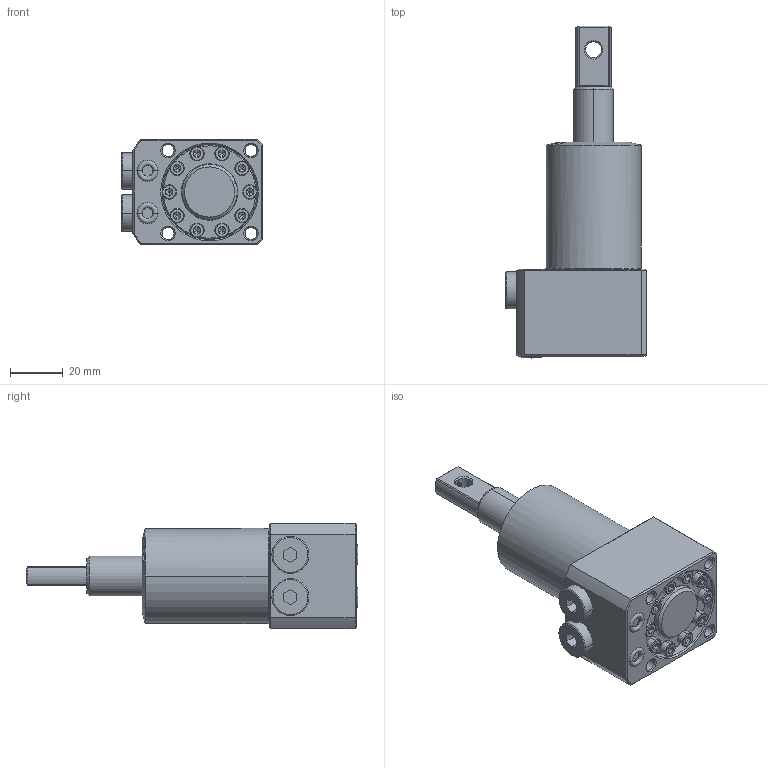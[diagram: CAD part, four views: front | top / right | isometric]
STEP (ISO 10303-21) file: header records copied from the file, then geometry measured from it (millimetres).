
FILE_DESCRIPTION((''),'2;1');
FILE_NAME('SIMP_GENERIC_SWING_CYD_36_PIN_ASM','2023-04-16T15:43:45',('Design 2'),(''),'CREO PARAMETRIC BY PTC INC, 2020053','CREO PARAMETRIC BY PTC INC, 2020053','');
FILE_SCHEMA(('CONFIG_CONTROL_DESIGN'));
Length unit declared in the file: millimetre
Products named in the file (13): BODY___; BODY_TOP_FLG____ASM; PIN_PISTON__; PISTON_ASM____ASM; SWINGER_ARM___; SWINGER_ARM_ASM____ASM; ISHCS03X10_; ORING-5X1-5____; 1_1_2_-___; 2_1_2_-___; HALDER_SEALING_PLUG_228_JHSBXH__ASM; G-1-8-CLOSE_PLUGE_; SIMP_GENERIC_SWING_CYD_36_PIN_ASM
Assembly tree (23 placements, depth 3):
  SIMP_GENERIC_SWING_CYD_36_PIN_ASM
    BODY_TOP_FLG____ASM
      BODY___
    PISTON_ASM____ASM
      PIN_PISTON__
    SWINGER_ARM_ASM____ASM
      SWINGER_ARM___
    ISHCS03X10_  x10
    ORING-5X1-5____  x2
    HALDER_SEALING_PLUG_228_JHSBXH__ASM
      1_1_2_-___
      2_1_2_-___
    G-1-8-CLOSE_PLUGE_  x2
Bounding box: 53.3 x 125.7 x 40 mm (x, y, z)
Volume: 111461.7 mm3; surface area: 33683 mm2
Topology: 19 solids, 19 shells, 704 faces, 1535 edges, 882 vertices
Faces by surface type: plane 226, cylinder 219, cone 199, torus 38, bspline 19, sphere 3
Entity records: 14042 total; most frequent: CARTESIAN_POINT 5044, DIRECTION 1933, ORIENTED_EDGE 1722, EDGE_CURVE 861, AXIS2_PLACEMENT_3D 771, VERTEX_POINT 508, EDGE_LOOP 445, VECTOR 391
